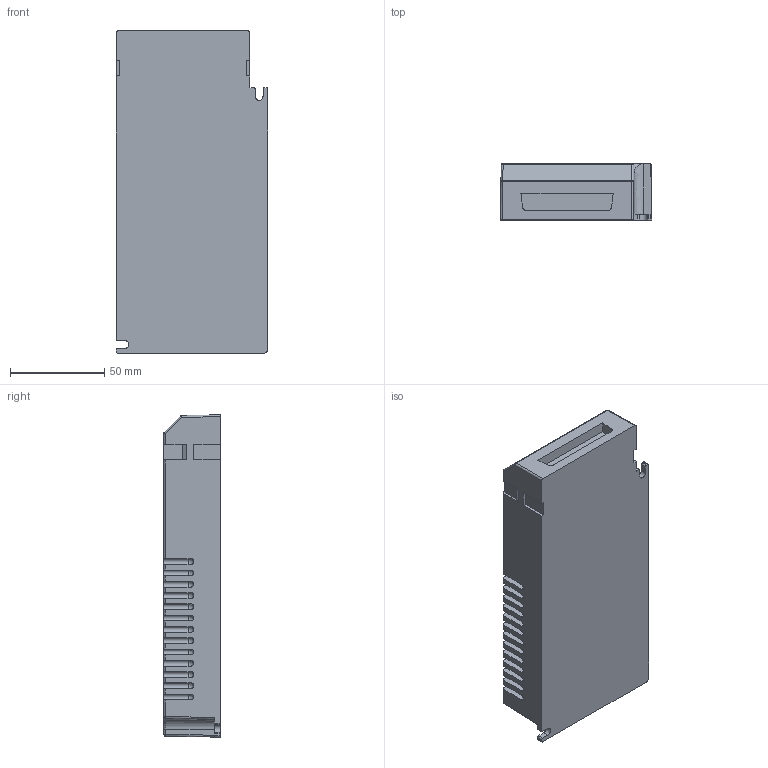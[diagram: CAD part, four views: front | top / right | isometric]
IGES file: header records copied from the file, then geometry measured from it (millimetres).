
Start section:  PTC IGES file: lc1x70-e-da_sr.igs
Global section: file name: lc1x70-e-da_sr.igs; native system: Pro/ENGINEER by Parametric Technology Corporation; preprocessor: 2003010; author: RUUSKA_TAPIO; organization: Unknown; date: 140303.134131; units: millimetre
Bounding box: 80.5 x 30 x 171.3 mm (x, y, z)
Volume: 372608.1 mm3; surface area: 51454.8 mm2
Topology: 1 solids, 1 shells, 245 faces, 700 edges, 458 vertices
Faces by surface type: revolution 134, bspline 111
